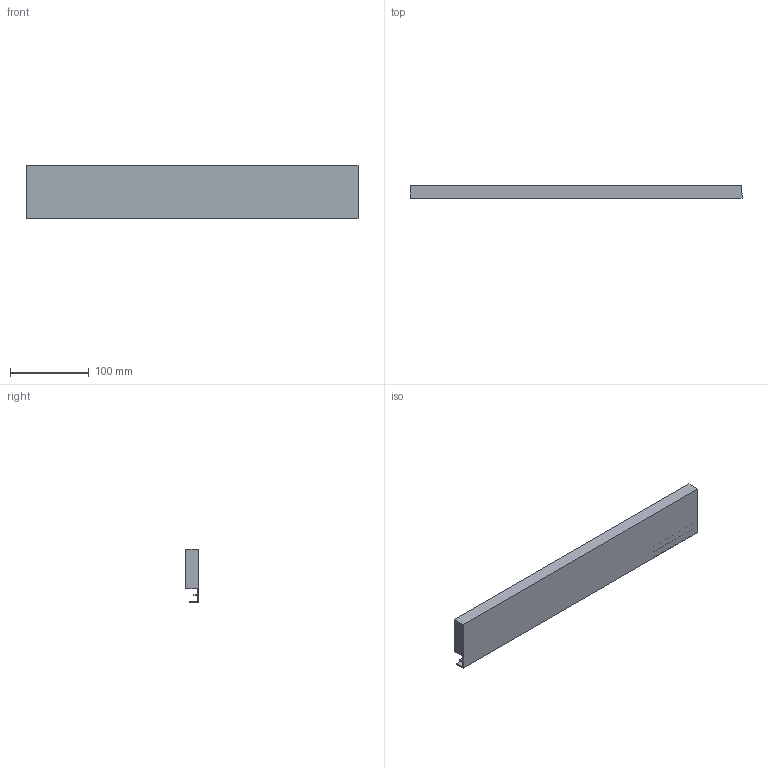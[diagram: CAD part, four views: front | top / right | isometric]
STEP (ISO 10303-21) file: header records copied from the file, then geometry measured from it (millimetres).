
FILE_DESCRIPTION (( 'STEP AP214' ), '1' );
FILE_NAME ('Innenschub-Blendenprofil_KAB550_S19.step', '2010-09-23T12:27:08', ( 'grass' ), ( '' ), 'SwSTEP 2.0', 'SolidWorks 2010', '' );
FILE_SCHEMA (( 'AUTOMOTIVE_DESIGN' ));
Length unit declared in the file: millimetre
Products named in the file (1): Innenschub-Blendenprofil_KAB550_S19
Bounding box: 421 x 15.9 x 67.6 mm (x, y, z)
Volume: 349058.3 mm3; surface area: 84293.2 mm2
Topology: 1 solids, 1 shells, 17 faces, 42 edges, 28 vertices
Faces by surface type: plane 15, cylinder 2
Entity records: 534 total; most frequent: CARTESIAN_POINT 88, ORIENTED_EDGE 84, DIRECTION 82, EDGE_CURVE 42, LINE 38, VECTOR 38, VERTEX_POINT 28, AXIS2_PLACEMENT_3D 22
